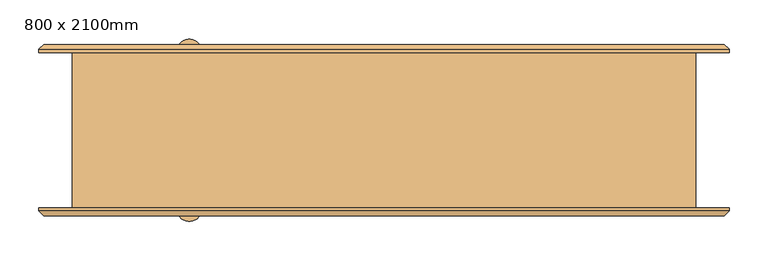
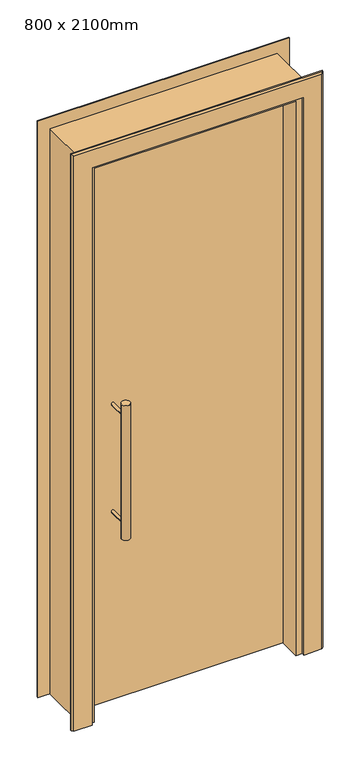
"""IFC4 building model written with IfcOpenShell, lengths in millimetres: door geometry, Porta pivotante simples com revestimento : 800 x 2100mm."""

from ifc_helpers import new_model, si_unit, point, frame, frame_2d, origin, origin_with_axes, place, context, project, spatial, polyline, circle_curve, trimmed, segment, composite_curve, outline, extrude, faceted_brep, source, transform, mapped, element, save


def door_800_x_2100mm_d9766a97(model_context):
    return source(origin(), model_context, "Body", "SolidModel", [
        extrude(outline(composite_curve([segment(trimmed(circle_curve(frame_2d((-250.0, 102.5)), 15.0), [point((-265.0, 102.5))], [point((-235.0, 102.5))], False, "CARTESIAN"), True, "CONTINUOUS"), segment(trimmed(circle_curve(frame_2d((-250.0, 102.5)), 15.0), [point((-235.0, 102.5))], [point((-265.0, 102.5))], False, "CARTESIAN"), True, "CONTINUOUS")], self_intersect=False)), frame((0.0, 0.0, 650.0), z_axis=(0.0, 0.0, 1.0), x_axis=(1.0, 0.0, 0.0)), (0.0, 0.0, 1.0), 500.0),
        extrude(outline(composite_curve([segment(trimmed(circle_curve(frame_2d((1100.0, -250.0)), 5.0), [point((1100.0, -255.0))], [point((1100.0, -245.0))], False, "CARTESIAN"), True, "CONTINUOUS"), segment(trimmed(circle_curve(frame_2d((1100.0, -250.0)), 5.0), [point((1100.0, -245.0))], [point((1100.0, -255.0))], False, "CARTESIAN"), True, "CONTINUOUS")], self_intersect=False)), frame((0.0, 22.5, 0.0), z_axis=(0.0, 1.0, 0.0), x_axis=(0.0, 0.0, 1.0)), (0.0, 0.0, 1.0), 80.0),
        extrude(outline(composite_curve([segment(trimmed(circle_curve(frame_2d((700.0, -250.0)), 5.0), [point((700.0, -255.0))], [point((700.0, -245.0))], False, "CARTESIAN"), True, "CONTINUOUS"), segment(trimmed(circle_curve(frame_2d((700.0, -250.0)), 5.0), [point((700.0, -245.0))], [point((700.0, -255.0))], False, "CARTESIAN"), True, "CONTINUOUS")], self_intersect=False)), frame((0.0, 22.5, 0.0), z_axis=(0.0, 1.0, 0.0), x_axis=(0.0, 0.0, 1.0)), (0.0, 0.0, 1.0), 80.0),
        extrude(outline(composite_curve([segment(trimmed(circle_curve(frame_2d((1100.0, -250.0)), 5.0), [point((1100.0, -255.0))], [point((1100.0, -245.0))], False, "CARTESIAN"), True, "CONTINUOUS"), segment(trimmed(circle_curve(frame_2d((1100.0, -250.0)), 5.0), [point((1100.0, -245.0))], [point((1100.0, -255.0))], False, "CARTESIAN"), True, "CONTINUOUS")], self_intersect=False)), frame((0.0, -102.5, 0.0), z_axis=(0.0, 1.0, 0.0), x_axis=(0.0, 0.0, 1.0)), (0.0, 0.0, 1.0), 80.0),
        extrude(outline(composite_curve([segment(trimmed(circle_curve(frame_2d((700.0, -250.0)), 5.0), [point((700.0, -255.0))], [point((700.0, -245.0))], False, "CARTESIAN"), True, "CONTINUOUS"), segment(trimmed(circle_curve(frame_2d((700.0, -250.0)), 5.0), [point((700.0, -245.0))], [point((700.0, -255.0))], False, "CARTESIAN"), True, "CONTINUOUS")], self_intersect=False)), frame((0.0, -102.5, 0.0), z_axis=(0.0, 1.0, 0.0), x_axis=(0.0, 0.0, 1.0)), (0.0, 0.0, 1.0), 80.0),
        extrude(outline(composite_curve([segment(trimmed(circle_curve(frame_2d((-250.0, -102.5)), 15.0), [point((-265.0, -102.5))], [point((-235.0, -102.5))], False, "CARTESIAN"), True, "CONTINUOUS"), segment(trimmed(circle_curve(frame_2d((-250.0, -102.5)), 15.0), [point((-235.0, -102.5))], [point((-265.0, -102.5))], False, "CARTESIAN"), True, "CONTINUOUS")], self_intersect=False)), frame((0.0, 0.0, 650.0), z_axis=(0.0, 0.0, 1.0), x_axis=(1.0, 0.0, 0.0)), (0.0, 0.0, 1.0), 500.0),
        extrude(outline(polyline([(360.0, 22.5), (360.0, -22.5), (-360.0, -22.5), (-360.0, 22.5), (360.0, 22.5)])), origin_with_axes(), (0.0, 0.0, 1.0), 2060.0),
        faceted_brep([(-443.0, 104.0, 0.0), (-437.0, 110.0, 0.0), (-373.0, 110.0, 0.0), (-373.0, 100.0, 0.0), (-443.0, 100.0, 0.0), (-443.0, 104.0, 2143.0), (-437.0, 110.0, 2137.0), (437.0, 110.0, 2137.0), (437.0, 110.0, 0.0), (373.0, 110.0, 0.0), (373.0, 110.0, 2073.0), (-373.0, 110.0, 2073.0), (-373.0, 100.0, 2073.0), (373.0, 100.0, 2073.0), (373.0, 100.0, 0.0), (443.0, 100.0, 0.0), (443.0, 100.0, 2143.0), (-443.0, 100.0, 2143.0), (443.0, 104.0, 2143.0), (443.0, 104.0, 0.0)], [[[0, 1, 2, 3, 4]], [[1, 0, 5, 6]], [[2, 1, 6, 7, 8, 9, 10, 11]], [[3, 2, 11, 12]], [[4, 3, 12, 13, 14, 15, 16, 17]], [[0, 4, 17, 5]], [[7, 18, 19, 8]], [[19, 15, 14, 9, 8]], [[13, 10, 9, 14]], [[18, 16, 15, 19]], [[6, 5, 18, 7]], [[12, 11, 10, 13]], [[5, 17, 16, 18]]]),
        faceted_brep([(443.0, -104.0, 0.0), (437.0, -110.0, 0.0), (373.0, -110.0, 0.0), (373.0, -100.0, 0.0), (443.0, -100.0, 0.0), (443.0, -104.0, 2143.0), (437.0, -110.0, 2137.0), (-437.0, -110.0, 2137.0), (-437.0, -110.0, 0.0), (-373.0, -110.0, 0.0), (-373.0, -110.0, 2073.0), (373.0, -110.0, 2073.0), (373.0, -100.0, 2073.0), (-373.0, -100.0, 2073.0), (-373.0, -100.0, 0.0), (-443.0, -100.0, 0.0), (-443.0, -100.0, 2143.0), (443.0, -100.0, 2143.0), (-443.0, -104.0, 2143.0), (-443.0, -104.0, 0.0)], [[[0, 1, 2, 3, 4]], [[1, 0, 5, 6]], [[2, 1, 6, 7, 8, 9, 10, 11]], [[3, 2, 11, 12]], [[4, 3, 12, 13, 14, 15, 16, 17]], [[0, 4, 17, 5]], [[7, 18, 19, 8]], [[19, 15, 14, 9, 8]], [[13, 10, 9, 14]], [[18, 16, 15, 19]], [[6, 5, 18, 7]], [[12, 11, 10, 13]], [[5, 17, 16, 18]]]),
        faceted_brep([(400.0, 100.0, 2100.0), (400.0, -100.0, 2100.0), (400.0, -100.0, 0.0), (400.0, 100.0, 0.0), (-400.0, -100.0, 2100.0), (-400.0, -100.0, 0.0), (-360.0, -100.0, 0.0), (-360.0, -100.0, 2060.0), (350.0, -100.0, 2060.0), (350.0, -100.0, 0.0), (360.0, 100.0, 0.0), (350.0, -22.5, 0.0), (360.0, -22.5, 0.0), (-400.0, 100.0, 0.0), (-400.0, 100.0, 2100.0), (360.0, 100.0, 2060.0), (-350.0, 100.0, 2060.0), (-350.0, 100.0, 0.0), (-350.0, 22.5, 0.0), (-360.0, 22.5, 0.0), (-360.0, 22.5, 2060.0), (350.0, -22.5, 2060.0), (360.0, -22.5, 2060.0), (-350.0, 22.5, 2060.0)], [[[0, 1, 2, 3]], [[4, 5, 6, 7, 8, 9, 2, 1]], [[10, 3, 2, 9, 11, 12]], [[13, 14, 0, 3, 10, 15, 16, 17]], [[4, 14, 13, 5]], [[13, 17, 18, 19, 6, 5]], [[6, 19, 20, 7]], [[11, 9, 8, 21]], [[10, 12, 22, 15]], [[18, 17, 16, 23]], [[12, 11, 21, 22]], [[19, 18, 23, 20]], [[21, 8, 7, 20, 23, 16, 15, 22]], [[1, 0, 14, 4]]]),
    ])


if __name__ == "__main__":
    model = new_model("IFC4")
    model_context = context("Model", 3, world=origin())
    ifc_project = project(units=[si_unit("LENGTHUNIT", "METRE", prefix="MILLI")], contexts=[model_context])
    site = spatial("IfcSite", under=ifc_project)
    building = spatial("IfcBuilding", under=site)
    placement = place(None, origin())
    door_800_x_2100mm_shape = door_800_x_2100mm_d9766a97(model_context)
    element("IfcDoor", 1, ObjectType="Porta pivotante simples com revestimento : 800 x 2100mm", at=placement, inside=building, context=model_context, shape_type="MappedRepresentation", body=[
        mapped(door_800_x_2100mm_shape, transform((0.0, 0.0, 0.0), x_axis=(1.0, 0.0, 0.0), y_axis=(0.0, 1.0, 0.0), z_axis=(0.0, 0.0, 1.0))),
    ])
    save(model, "model.ifc")
